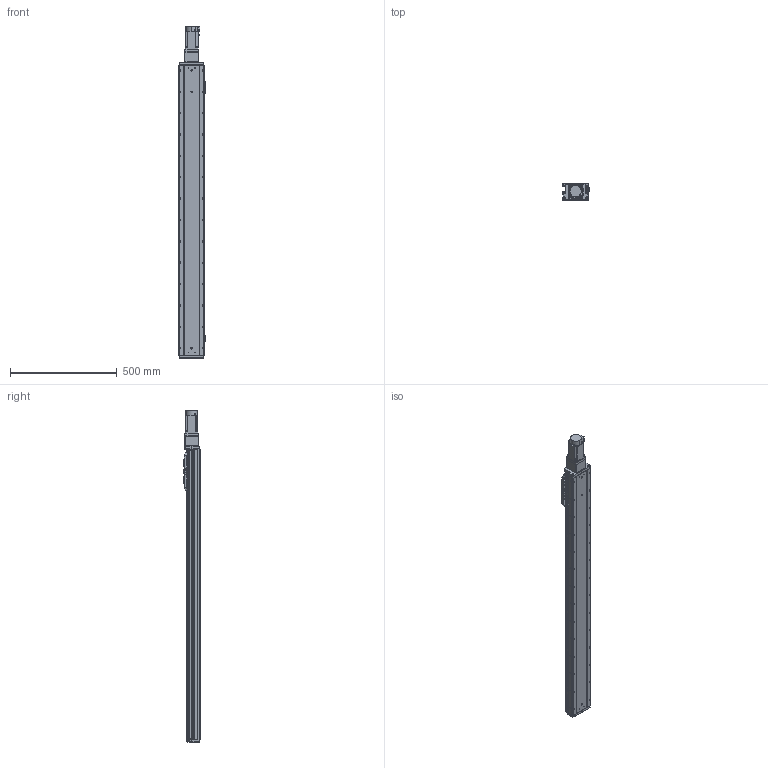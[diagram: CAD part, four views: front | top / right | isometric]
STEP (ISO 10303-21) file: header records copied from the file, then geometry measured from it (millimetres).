
FILE_DESCRIPTION (( 'STEP AP203' ), '1' );
FILE_NAME ('GTH12-1150-BC-M40-C4.STEP', '2023-03-11T02:16:15', ( '微软用户' ), ( '微软中国' ), 'SwSTEP 2.0', 'SolidWorks 2020', '' );
FILE_SCHEMA (( 'CONFIG_CONTROL_DESIGN' ));
Length unit declared in the file: millimetre
Products named in the file (19): GTH12-1150-BC-M40-C4; GTH120-004; GTH120-006; GTH120-001_1150; GTH80-028; GBT 70.3-M3℅8; GTH80-022; GTH120-013; GBT 70.1-M3℅6; GTH120-003; GBT 70.1-M5×16; GBT96.1-2002 3×0.8; BTH-M3X5X6; hg-kn43j_-s100_; GTH50-024; GTH50-023; CTHA86-006-1_CTHA86-006-2; CTHA86-013; CTHA86-027
Assembly tree (62 placements, depth 2):
  GTH12-1150-BC-M40-C4
    GTH120-001_1150
    GTH120-003
    GTH120-006
    GTH120-004
    GTH120-013
    GBT 70.1-M3℅6  x14
    GBT 70.1-M5×16  x10
    GBT 70.3-M3℅8  x6
    GTH80-022
    GTH80-028  x2
    GTH50-023  x3
    GTH50-024  x3
    GBT96.1-2002 3×0.8  x6
    BTH-M3X5X6  x8
    CTHA86-006-1_CTHA86-006-2
    CTHA86-013
    CTHA86-027
    hg-kn43j_-s100_
Bounding box: 125.7 x 76 x 1553.7 mm (x, y, z)
Volume: 9941087.2 mm3; surface area: 826406.3 mm2
Topology: 64 solids, 64 shells, 2579 faces, 6018 edges, 3671 vertices
Faces by surface type: plane 1296, cylinder 754, cone 351, torus 170, sphere 8
Entity records: 47879 total; most frequent: DIRECTION 8048, CARTESIAN_POINT 7716, ORIENTED_EDGE 7418, EDGE_CURVE 3709, AXIS2_PLACEMENT_3D 2812, VECTOR 2424, LINE 2424, VERTEX_POINT 2330
